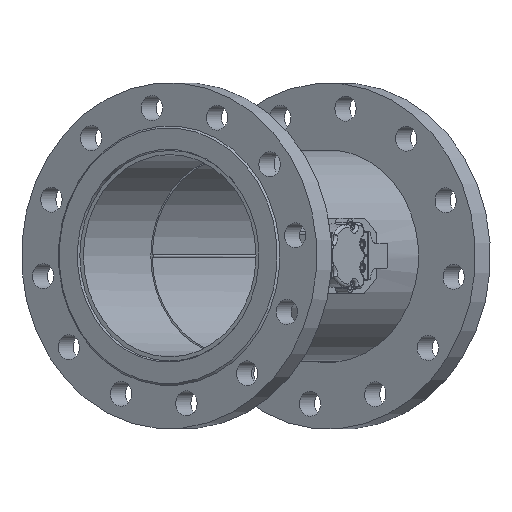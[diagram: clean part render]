
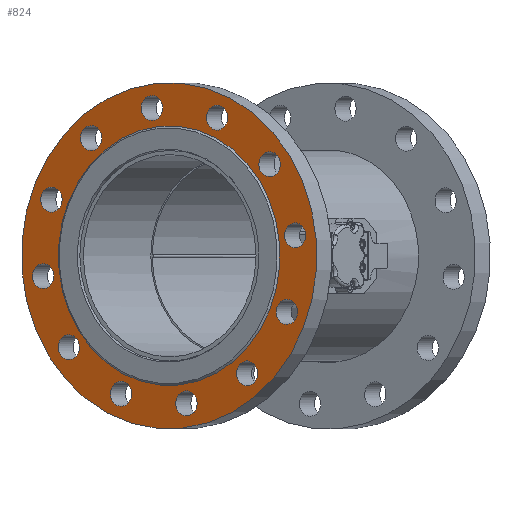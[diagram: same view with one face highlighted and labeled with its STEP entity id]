
A CAD part, top view. The second image highlights one B-rep face of the part: STEP entity #824.
In plain terms, the highlighted planar face has unit normal (-0.522, 0, 0.853) as drawn and (0, 0, 1) by its records, which use the part's own axes.
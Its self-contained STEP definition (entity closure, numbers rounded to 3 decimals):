
#824 = ADVANCED_FACE( '', ( #1680, #1681, #1682, #1683, #1684, #1685, #1686, #1687, #1688, #1689, #1690, #1691, #1692, #1693 ), #1694, .T. );
#1680 = FACE_BOUND( '', #4103, .T. );
#1681 = FACE_BOUND( '', #4104, .T. );
#1682 = FACE_BOUND( '', #4105, .T. );
#1683 = FACE_BOUND( '', #4106, .T. );
#1684 = FACE_BOUND( '', #4107, .T. );
#1685 = FACE_BOUND( '', #4108, .T. );
#1686 = FACE_BOUND( '', #4109, .T. );
#1687 = FACE_BOUND( '', #4110, .T. );
#1688 = FACE_BOUND( '', #4111, .T. );
#1689 = FACE_BOUND( '', #4112, .T. );
#1690 = FACE_BOUND( '', #4113, .T. );
#1691 = FACE_BOUND( '', #4114, .T. );
#1692 = FACE_OUTER_BOUND( '', #4115, .T. );
#1693 = FACE_BOUND( '', #4116, .T. );
#1694 = PLANE( '', #4117 );
#4103 = EDGE_LOOP( '', ( #7473 ) );
#4104 = EDGE_LOOP( '', ( #7474 ) );
#4105 = EDGE_LOOP( '', ( #7475 ) );
#4106 = EDGE_LOOP( '', ( #7476 ) );
#4107 = EDGE_LOOP( '', ( #7477 ) );
#4108 = EDGE_LOOP( '', ( #7478 ) );
#4109 = EDGE_LOOP( '', ( #7479 ) );
#4110 = EDGE_LOOP( '', ( #7480 ) );
#4111 = EDGE_LOOP( '', ( #7481 ) );
#4112 = EDGE_LOOP( '', ( #7482 ) );
#4113 = EDGE_LOOP( '', ( #7483 ) );
#4114 = EDGE_LOOP( '', ( #7484 ) );
#4115 = EDGE_LOOP( '', ( #7485 ) );
#4116 = EDGE_LOOP( '', ( #7486 ) );
#4117 = AXIS2_PLACEMENT_3D( '', #7487, #7488, #7489 );
#7473 = ORIENTED_EDGE( '', *, *, #8219, .T. );
#7474 = ORIENTED_EDGE( '', *, *, #8154, .T. );
#7475 = ORIENTED_EDGE( '', *, *, #8464, .T. );
#7476 = ORIENTED_EDGE( '', *, *, #8510, .T. );
#7477 = ORIENTED_EDGE( '', *, *, #8377, .T. );
#7478 = ORIENTED_EDGE( '', *, *, #8157, .T. );
#7479 = ORIENTED_EDGE( '', *, *, #8766, .T. );
#7480 = ORIENTED_EDGE( '', *, *, #8767, .T. );
#7481 = ORIENTED_EDGE( '', *, *, #8439, .T. );
#7482 = ORIENTED_EDGE( '', *, *, #8768, .T. );
#7483 = ORIENTED_EDGE( '', *, *, #8193, .T. );
#7484 = ORIENTED_EDGE( '', *, *, #8519, .T. );
#7485 = ORIENTED_EDGE( '', *, *, #8446, .T. );
#7486 = ORIENTED_EDGE( '', *, *, #8209, .F. );
#7487 = CARTESIAN_POINT( '', ( 180., 0., 30. ) );
#7488 = DIRECTION( '', ( 0., 0., 1. ) );
#7489 = DIRECTION( '', ( 1., 0., 0. ) );
#8154 = EDGE_CURVE( '', #9036, #9036, #9037, .T. );
#8157 = EDGE_CURVE( '', #9041, #9041, #9042, .T. );
#8193 = EDGE_CURVE( '', #9103, #9103, #9104, .T. );
#8209 = EDGE_CURVE( '', #9130, #9130, #9131, .T. );
#8219 = EDGE_CURVE( '', #9147, #9147, #9148, .T. );
#8377 = EDGE_CURVE( '', #9399, #9399, #9400, .T. );
#8439 = EDGE_CURVE( '', #9499, #9499, #9500, .T. );
#8446 = EDGE_CURVE( '', #9510, #9510, #9511, .T. );
#8464 = EDGE_CURVE( '', #9537, #9537, #9538, .T. );
#8510 = EDGE_CURVE( '', #9607, #9607, #9608, .T. );
#8519 = EDGE_CURVE( '', #9620, #9620, #9621, .T. );
#8766 = EDGE_CURVE( '', #9940, #9940, #9941, .T. );
#8767 = EDGE_CURVE( '', #9942, #9942, #9943, .T. );
#8768 = EDGE_CURVE( '', #9944, #9944, #9945, .T. );
#9036 = VERTEX_POINT( '', #10426 );
#9037 = CIRCLE( '', #10427, 13. );
#9041 = VERTEX_POINT( '', #10431 );
#9042 = CIRCLE( '', #10432, 13. );
#9103 = VERTEX_POINT( '', #10527 );
#9104 = CIRCLE( '', #10528, 13. );
#9130 = VERTEX_POINT( '', #10561 );
#9131 = CIRCLE( '', #10562, 135. );
#9147 = VERTEX_POINT( '', #10578 );
#9148 = CIRCLE( '', #10579, 13. );
#9399 = VERTEX_POINT( '', #11258 );
#9400 = CIRCLE( '', #11259, 13. );
#9499 = VERTEX_POINT( '', #11390 );
#9500 = CIRCLE( '', #11391, 13. );
#9510 = VERTEX_POINT( '', #11422 );
#9511 = CIRCLE( '', #11423, 180. );
#9537 = VERTEX_POINT( '', #11538 );
#9538 = CIRCLE( '', #11539, 13. );
#9607 = VERTEX_POINT( '', #11758 );
#9608 = CIRCLE( '', #11759, 13. );
#9620 = VERTEX_POINT( '', #11775 );
#9621 = CIRCLE( '', #11776, 13. );
#9940 = VERTEX_POINT( '', #12536 );
#9941 = CIRCLE( '', #12537, 13. );
#9942 = VERTEX_POINT( '', #12538 );
#9943 = CIRCLE( '', #12539, 13. );
#9944 = VERTEX_POINT( '', #12540 );
#9945 = CIRCLE( '', #12541, 13. );
#10426 = CARTESIAN_POINT( '', ( -153.674, 7.232, 30. ) );
#10427 = AXIS2_PLACEMENT_3D( '', #12932, #12933, #12934 );
#10431 = CARTESIAN_POINT( '', ( 59.316, -156.201, 30. ) );
#10432 = AXIS2_PLACEMENT_3D( '', #12938, #12939, #12940 );
#10527 = CARTESIAN_POINT( '', ( 20.232, 140.674, 30. ) );
#10528 = AXIS2_PLACEMENT_3D( '', #12990, #12991, #12992 );
#10561 = CARTESIAN_POINT( '', ( 135., 0., 30. ) );
#10562 = AXIS2_PLACEMENT_3D( '', #13012, #13013, #13014 );
#10578 = CARTESIAN_POINT( '', ( -122.97, 81.358, 30. ) );
#10579 = AXIS2_PLACEMENT_3D( '', #13033, #13034, #13035 );
#11258 = CARTESIAN_POINT( '', ( -20.232, -166.674, 30. ) );
#11259 = AXIS2_PLACEMENT_3D( '', #13247, #13248, #13249 );
#11390 = CARTESIAN_POINT( '', ( 143.201, 46.316, 30. ) );
#11391 = AXIS2_PLACEMENT_3D( '', #13341, #13342, #13343 );
#11422 = CARTESIAN_POINT( '', ( 180., 0., 30. ) );
#11423 = AXIS2_PLACEMENT_3D( '', #13353, #13354, #13355 );
#11538 = CARTESIAN_POINT( '', ( -143.201, -72.316, 30. ) );
#11539 = AXIS2_PLACEMENT_3D( '', #13381, #13382, #13383 );
#11758 = CARTESIAN_POINT( '', ( -94.358, -135.97, 30. ) );
#11759 = AXIS2_PLACEMENT_3D( '', #13463, #13464, #13465 );
#11775 = CARTESIAN_POINT( '', ( -59.316, 130.201, 30. ) );
#11776 = AXIS2_PLACEMENT_3D( '', #13473, #13474, #13475 );
#12536 = CARTESIAN_POINT( '', ( 122.97, -107.358, 30. ) );
#12537 = AXIS2_PLACEMENT_3D( '', #13785, #13786, #13787 );
#12538 = CARTESIAN_POINT( '', ( 153.674, -33.232, 30. ) );
#12539 = AXIS2_PLACEMENT_3D( '', #13788, #13789, #13790 );
#12540 = CARTESIAN_POINT( '', ( 94.358, 109.97, 30. ) );
#12541 = AXIS2_PLACEMENT_3D( '', #13791, #13792, #13793 );
#12932 = CARTESIAN_POINT( '', ( -153.674, 20.232, 30. ) );
#12933 = DIRECTION( '', ( 0., 0., -1. ) );
#12934 = DIRECTION( '', ( 0., -1., 0. ) );
#12938 = CARTESIAN_POINT( '', ( 59.316, -143.201, 30. ) );
#12939 = DIRECTION( '', ( 0., 0., -1. ) );
#12940 = DIRECTION( '', ( 0., -1., 0. ) );
#12990 = CARTESIAN_POINT( '', ( 20.232, 153.674, 30. ) );
#12991 = DIRECTION( '', ( 0., 0., -1. ) );
#12992 = DIRECTION( '', ( 0., -1., 0. ) );
#13012 = CARTESIAN_POINT( '', ( 0., 0., 30. ) );
#13013 = DIRECTION( '', ( 0., 0., 1. ) );
#13014 = DIRECTION( '', ( 1., 0., 0. ) );
#13033 = CARTESIAN_POINT( '', ( -122.97, 94.358, 30. ) );
#13034 = DIRECTION( '', ( 0., 0., -1. ) );
#13035 = DIRECTION( '', ( 0., -1., 0. ) );
#13247 = CARTESIAN_POINT( '', ( -20.232, -153.674, 30. ) );
#13248 = DIRECTION( '', ( 0., 0., -1. ) );
#13249 = DIRECTION( '', ( 0., -1., 0. ) );
#13341 = CARTESIAN_POINT( '', ( 143.201, 59.316, 30. ) );
#13342 = DIRECTION( '', ( 0., 0., -1. ) );
#13343 = DIRECTION( '', ( 0., -1., 0. ) );
#13353 = CARTESIAN_POINT( '', ( 0., 0., 30. ) );
#13354 = DIRECTION( '', ( 0., 0., 1. ) );
#13355 = DIRECTION( '', ( 1., 0., 0. ) );
#13381 = CARTESIAN_POINT( '', ( -143.201, -59.316, 30. ) );
#13382 = DIRECTION( '', ( 0., 0., -1. ) );
#13383 = DIRECTION( '', ( 0., -1., 0. ) );
#13463 = CARTESIAN_POINT( '', ( -94.358, -122.97, 30. ) );
#13464 = DIRECTION( '', ( 0., 0., -1. ) );
#13465 = DIRECTION( '', ( 0., -1., 0. ) );
#13473 = CARTESIAN_POINT( '', ( -59.316, 143.201, 30. ) );
#13474 = DIRECTION( '', ( 0., 0., -1. ) );
#13475 = DIRECTION( '', ( 0., -1., 0. ) );
#13785 = CARTESIAN_POINT( '', ( 122.97, -94.358, 30. ) );
#13786 = DIRECTION( '', ( 0., 0., -1. ) );
#13787 = DIRECTION( '', ( 0., -1., 0. ) );
#13788 = CARTESIAN_POINT( '', ( 153.674, -20.232, 30. ) );
#13789 = DIRECTION( '', ( 0., 0., -1. ) );
#13790 = DIRECTION( '', ( 0., -1., 0. ) );
#13791 = CARTESIAN_POINT( '', ( 94.358, 122.97, 30. ) );
#13792 = DIRECTION( '', ( 0., 0., -1. ) );
#13793 = DIRECTION( '', ( 0., -1., 0. ) );
